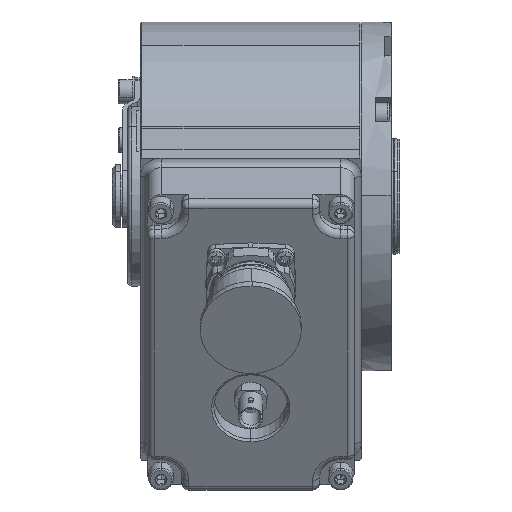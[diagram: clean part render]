
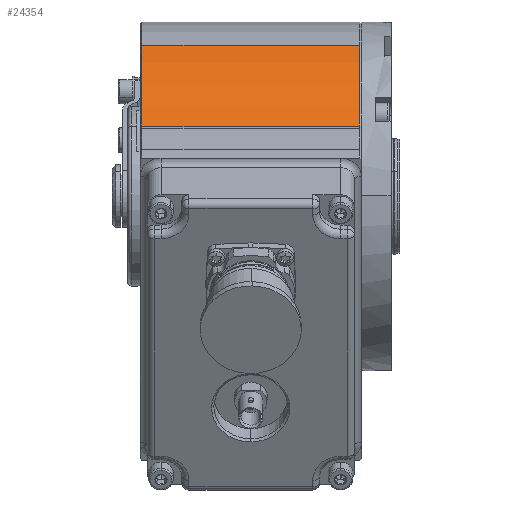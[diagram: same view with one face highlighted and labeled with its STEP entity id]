
A CAD part, top view. The second image highlights one B-rep face of the part: STEP entity #24354.
In plain terms, the highlighted cylindrical face has radius 50 mm (diameter 100 mm), a partial arc.
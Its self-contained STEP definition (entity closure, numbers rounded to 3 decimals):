
#2245 = EDGE_CURVE ( 'NONE', #68702, #50603, #29974, .T. ) ;
#5035 = DIRECTION ( 'NONE',  ( 0., -0.866, -0.5 ) ) ;
#6417 = CIRCLE ( 'NONE', #44801, 50. ) ;
#8739 = CARTESIAN_POINT ( 'NONE',  ( -71.5, 0., 0. ) ) ;
#10901 = DIRECTION ( 'NONE',  ( -1., 0., 0. ) ) ;
#11230 = CARTESIAN_POINT ( 'NONE',  ( -58.5, 43.301, 25. ) ) ;
#13432 = ORIENTED_EDGE ( 'NONE', *, *, #43112, .T. ) ;
#13517 = VERTEX_POINT ( 'NONE', #71745 ) ;
#14845 = DIRECTION ( 'NONE',  ( 0., 0.866, 0.5 ) ) ;
#18791 = ORIENTED_EDGE ( 'NONE', *, *, #36570, .T. ) ;
#23524 = DIRECTION ( 'NONE',  ( -1., 0., 0. ) ) ;
#24354 = ADVANCED_FACE ( 'NONE', ( #48860 ), #27070, .T. ) ;
#24818 = DIRECTION ( 'NONE',  ( -1., 0., 0. ) ) ;
#27070 = CYLINDRICAL_SURFACE ( 'NONE', #50762, 50. ) ;
#28055 = VECTOR ( 'NONE', #36240, 1000. ) ;
#29409 = EDGE_CURVE ( 'NONE', #13517, #46198, #74931, .T. ) ;
#29974 = LINE ( 'NONE', #36735, #28055 ) ;
#36240 = DIRECTION ( 'NONE',  ( 1., 0., 0. ) ) ;
#36570 = EDGE_CURVE ( 'NONE', #50603, #13517, #6417, .T. ) ;
#36735 = CARTESIAN_POINT ( 'NONE',  ( -72., 17.493, 46.84 ) ) ;
#41260 = CARTESIAN_POINT ( 'NONE',  ( -58.5, 0., 0. ) ) ;
#43112 = EDGE_CURVE ( 'NONE', #46198, #68702, #50278, .T. ) ;
#43728 = CARTESIAN_POINT ( 'NONE',  ( -71.5, 43.301, 25. ) ) ;
#44564 = VECTOR ( 'NONE', #23524, 1000. ) ;
#44801 = AXIS2_PLACEMENT_3D ( 'NONE', #61206, #24818, #67278 ) ;
#45027 = AXIS2_PLACEMENT_3D ( 'NONE', #8739, #51327, #14845 ) ;
#46198 = VERTEX_POINT ( 'NONE', #43728 ) ;
#48860 = FACE_OUTER_BOUND ( 'NONE', #51300, .T. ) ;
#50278 = CIRCLE ( 'NONE', #45027, 50. ) ;
#50603 = VERTEX_POINT ( 'NONE', #69379 ) ;
#50762 = AXIS2_PLACEMENT_3D ( 'NONE', #41260, #10901, #5035 ) ;
#51300 = EDGE_LOOP ( 'NONE', ( #18791, #65662, #13432, #56376 ) ) ;
#51327 = DIRECTION ( 'NONE',  ( 1., 0., 0. ) ) ;
#56376 = ORIENTED_EDGE ( 'NONE', *, *, #2245, .T. ) ;
#61206 = CARTESIAN_POINT ( 'NONE',  ( -9., 0., 0. ) ) ;
#65662 = ORIENTED_EDGE ( 'NONE', *, *, #29409, .T. ) ;
#67278 = DIRECTION ( 'NONE',  ( 0., -0.866, -0.5 ) ) ;
#68702 = VERTEX_POINT ( 'NONE', #75160 ) ;
#69379 = CARTESIAN_POINT ( 'NONE',  ( -9., 17.493, 46.84 ) ) ;
#71745 = CARTESIAN_POINT ( 'NONE',  ( -9., 43.301, 25. ) ) ;
#74931 = LINE ( 'NONE', #11230, #44564 ) ;
#75160 = CARTESIAN_POINT ( 'NONE',  ( -71.5, 17.493, 46.84 ) ) ;
